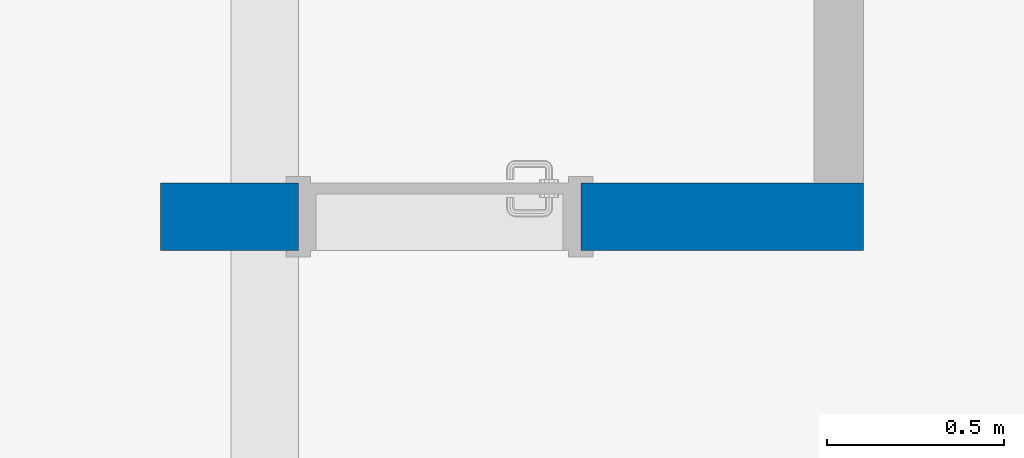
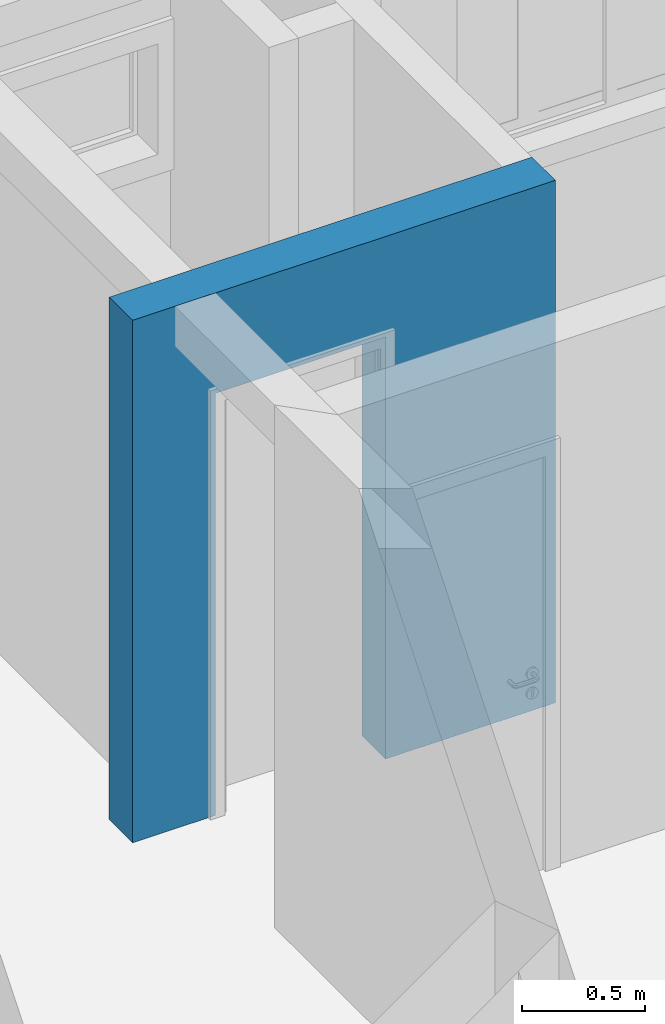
# One storey, part 10 of 47: 1 wall, 1 opening.
"""IFC2X3 building model written with IfcOpenShell, lengths in millimetres."""

import ifcopenshell
import ifcopenshell.guid

model = None  # the IFC model being written
_history = None  # IfcOwnerHistory: only IFC2X3 demands one
_inside = {}  # id of a spatial element -> (the spatial element, [elements in it])
_under = {}  # id of a project, library or spatial element -> (it, [spatial elements below it])
_declared = {}  # id of a project -> (the project, [libraries it declares])
_typed = {}  # id of a type object -> (the type object, [elements of that type])
_made_of = {}  # id of a material, layer set ... -> (it, [elements and type objects made of it])


def new_model(schema):
    """Start an empty IFC model of exactly this schema.

    Asked for "IFC4X3", IfcOpenShell would pick the latest addendum, in which some entities
    have other attributes; the version numbers below select the first issue.
    IFC2X3 requires an IfcOwnerHistory on every rooted entity: one is made here for all.
    """
    global model, _history
    if schema == "IFC4X3":
        model = ifcopenshell.file(schema_version=(4, 3, 0, 0))
    else:
        model = ifcopenshell.file(schema=schema)
    _inside.clear()
    _under.clear()
    _declared.clear()
    _typed.clear()
    _made_of.clear()
    _history = None
    if model.schema == "IFC2X3":
        org = make("IfcOrganization", Name="unknown")
        user = make(
            "IfcPersonAndOrganization",
            ThePerson=make("IfcPerson", FamilyName="unknown"),
            TheOrganization=org,
        )
        app = make(
            "IfcApplication",
            ApplicationDeveloper=org,
            Version="unknown",
            ApplicationFullName="unknown",
            ApplicationIdentifier="unknown",
        )
        _history = make(
            "IfcOwnerHistory",
            OwningUser=user,
            OwningApplication=app,
            ChangeAction="ADDED",
            CreationDate=0,
        )
    return model


def make(cls, **values):
    """One entity of the class cls with the attributes given. An attribute that is None is left unset."""
    return model.create_entity(
        cls, **{name: value for name, value in values.items() if value is not None}
    )


def entity(cls, *values):
    """Any entity or typed value of the class cls, its attributes in the order of the schema. None: left unset."""
    e = model.create_entity(cls)
    for i, value in enumerate(values):
        if value is not None:
            e[i] = value
    return e


def rooted(cls, **values):
    """An entity with a GlobalId (a new one), such as an element, a storey or a relation."""
    return make(cls, GlobalId=ifcopenshell.guid.new(), OwnerHistory=_history, **values)


def si_unit(unit_type, name, prefix=None):
    """IfcSIUnit, for example si_unit("LENGTHUNIT", "METRE", prefix="MILLI")."""
    return make("IfcSIUnit", UnitType=unit_type, Prefix=prefix, Name=name)


def converted_unit(unit_type, name, factor, base, dimensions=None, offset=None):
    """IfcConversionBasedUnit, such as the inch: factor (a typed value) times the base unit."""
    return make(
        "IfcConversionBasedUnit"
        if offset is None
        else "IfcConversionBasedUnitWithOffset",
        ConversionOffset=offset,
        Dimensions=None
        if dimensions is None
        else entity("IfcDimensionalExponents", *dimensions),
        UnitType=unit_type,
        Name=name,
        ConversionFactor=make(
            "IfcMeasureWithUnit", ValueComponent=factor, UnitComponent=base
        ),
    )


def derived_unit(unit_type, elements):
    """IfcDerivedUnit: a product of units, each with its exponent."""
    return make(
        "IfcDerivedUnit",
        Elements=[
            make("IfcDerivedUnitElement", Unit=unit, Exponent=power)
            for unit, power in elements
        ],
        UnitType=unit_type,
    )


def money_unit(currency):
    """IfcMonetaryUnit."""
    return make("IfcMonetaryUnit", Currency=currency)


def assignment(units):
    """IfcUnitAssignment: the units of a project."""
    return None if units is None else make("IfcUnitAssignment", Units=units)


def point(xyz):
    """IfcCartesianPoint."""
    return None if xyz is None else make("IfcCartesianPoint", Coordinates=xyz)


def direction(xyz):
    """IfcDirection."""
    return None if xyz is None else make("IfcDirection", DirectionRatios=xyz)


def frame(location, z_axis=None, x_axis=None):
    """IfcAxis2Placement3D, a coordinate frame: its origin and axes. An axis left out is left unset."""
    return make(
        "IfcAxis2Placement3D",
        Location=point(location),
        Axis=direction(z_axis),
        RefDirection=direction(x_axis),
    )


def frame_2d(location, x_axis=None):
    """IfcAxis2Placement2D, a coordinate frame in the plane: its origin and x axis."""
    return make(
        "IfcAxis2Placement2D", Location=point(location), RefDirection=direction(x_axis)
    )


def origin_with_axes():
    """The frame at (0, 0, 0) with the z axis (0, 0, 1) and the x axis (1, 0, 0) written out."""
    return frame((0.0, 0.0, 0.0), z_axis=(0.0, 0.0, 1.0), x_axis=(1.0, 0.0, 0.0))


def origin_2d_with_axis():
    """The frame at (0, 0) in the plane with the x axis (1, 0) written out."""
    return frame_2d((0.0, 0.0), x_axis=(1.0, 0.0))


def place(relative_to, where):
    """IfcLocalPlacement: puts the frame where relative to a parent placement (None: the world)."""
    return make(
        "IfcLocalPlacement", PlacementRelTo=relative_to, RelativePlacement=where
    )


def context(
    kind, dimensions, precision=None, world=None, true_north=None, identifier=None
):
    """IfcGeometricRepresentationContext, for example the 3D "Model" context."""
    return make(
        "IfcGeometricRepresentationContext",
        ContextIdentifier=identifier,
        ContextType=kind,
        CoordinateSpaceDimension=dimensions,
        Precision=precision,
        WorldCoordinateSystem=world,
        TrueNorth=true_north,
    )


def subcontext(parent, identifier, kind, view, scale=None):
    """IfcGeometricRepresentationSubContext, for example "Body" below "Model"."""
    return make(
        "IfcGeometricRepresentationSubContext",
        ContextIdentifier=identifier,
        ContextType=kind,
        ParentContext=parent,
        TargetScale=scale,
        TargetView=view,
    )


def project(units=None, contexts=None):
    """IfcProject with its units and contexts."""
    return rooted(
        "IfcProject",
        Name="project",
        RepresentationContexts=contexts,
        UnitsInContext=assignment(units),
    )


def spatial(cls, under=None, at=None, **own):
    """A site, building, storey or space (cls), placed at a placement, below another one or the project."""
    s = rooted(cls, ObjectPlacement=at, **own)
    if under is not None:
        _under.setdefault(under.id(), (under, []))[1].append(s)
    return s


def polyline(points):
    """IfcPolyline through the points."""
    return make("IfcPolyline", Points=[point(p) for p in points])


def profile(cls, at=None, kind="AREA", **sizes):
    """A parametric profile (cls). Its sizes go by their IFC names, for example OverallWidth=200.0."""
    return make(cls, ProfileType=kind, Position=at, **sizes)


def rectangle(**sizes):
    """IfcRectangleProfileDef."""
    return profile("IfcRectangleProfileDef", **sizes)


def outline(outer, holes=None, kind="AREA"):
    """IfcArbitraryClosedProfileDef: a profile drawn as a closed curve; with holes, ...WithVoids."""
    if holes is None:
        return make("IfcArbitraryClosedProfileDef", ProfileType=kind, OuterCurve=outer)
    return make(
        "IfcArbitraryProfileDefWithVoids",
        ProfileType=kind,
        OuterCurve=outer,
        InnerCurves=holes,
    )


def extrude(swept, where, along, depth):
    """IfcExtrudedAreaSolid: the profile swept, set in the frame where, extruded along a direction by depth."""
    return make(
        "IfcExtrudedAreaSolid",
        SweptArea=swept,
        Position=where,
        ExtrudedDirection=direction(along),
        Depth=depth,
    )


def shape(context_of_items, identifier, shape_type, items):
    """IfcShapeRepresentation: the items that make up one representation, for example the "Body"."""
    return make(
        "IfcShapeRepresentation",
        ContextOfItems=context_of_items,
        RepresentationIdentifier=identifier,
        RepresentationType=shape_type,
        Items=items,
    )


def material(Name=None, Category=None):
    """IfcMaterial."""
    return make("IfcMaterial", Name=Name, Category=Category)


def layer(
    of_material, thickness, ventilated=None, Name=None, Category=None, Priority=None
):
    """IfcMaterialLayer: one layer of a wall or slab, of a material (None: an air gap)."""
    return make(
        "IfcMaterialLayer",
        Material=of_material,
        LayerThickness=thickness,
        IsVentilated=ventilated,
        Name=Name,
        Category=Category,
        Priority=Priority,
    )


def layer_set(layers, Name=None):
    """IfcMaterialLayerSet."""
    return make("IfcMaterialLayerSet", MaterialLayers=layers, LayerSetName=Name)


def layer_usage(for_layer_set, set_direction, sense, offset, extent=None):
    """IfcMaterialLayerSetUsage: how a layer set lies in its element."""
    return make(
        "IfcMaterialLayerSetUsage",
        ForLayerSet=for_layer_set,
        LayerSetDirection=set_direction,
        DirectionSense=sense,
        OffsetFromReferenceLine=offset,
        ReferenceExtent=extent,
    )


def made_of(thing, what):
    """Note that an element or type object is made of a material, layer set ...; save() writes the relation."""
    if what is not None:
        _made_of.setdefault(what.id(), (what, []))[1].append(thing)
    return thing


def type_object(cls, material=None, **own):
    """A type object (cls), such as IfcWallType, which elements share."""
    return made_of(rooted(cls, **own), material)


def element(
    cls,
    number,
    at=None,
    inside=None,
    cuts=None,
    type_object=None,
    material=None,
    context=None,
    identifier="Body",
    shape_type=None,
    held_by="IfcProductDefinitionShape",
    body=None,
    shapes=None,
    **own,
):
    """One element of the class cls, such as IfcWall. Its Tag is "e" and its number.

    at: its placement. inside: the storey or other place that contains it. cuts: it is an
    opening in that element (IfcRelVoidsElement). A single representation is given by context,
    identifier, shape_type and body (its items); several are given by shapes. held_by: the class
    of the entity that holds the representations. save() writes the other relations.
    """
    e = rooted(cls, Tag="e%d" % number, ObjectPlacement=at, **own)
    if body is not None:
        shapes = [shape(context, identifier, shape_type, body)]
    if shapes is not None:
        e.Representation = make(held_by, Representations=shapes)
    if inside is not None:
        _inside.setdefault(inside.id(), (inside, []))[1].append(e)
    if cuts is not None:
        rooted(
            "IfcRelVoidsElement", RelatingBuildingElement=cuts, RelatedOpeningElement=e
        )
    if type_object is not None:
        _typed.setdefault(type_object.id(), (type_object, []))[1].append(e)
    return made_of(e, material)


def aggregate(whole, parts):
    """IfcRelAggregates: a whole, such as a stair, and the parts it consists of."""
    return rooted("IfcRelAggregates", RelatingObject=whole, RelatedObjects=parts)


def save(model, path):
    """Write the relations noted so far, then the file.

    IfcRelAggregates (storeys below a building ...), IfcRelContainedInSpatialStructure (elements
    in a storey), IfcRelDefinesByType, IfcRelAssociatesMaterial and IfcRelDeclares: one each for
    every whole, place, type object, material and project.
    """
    for whole, parts in _under.values():
        aggregate(whole, parts)
    for where, things in _inside.values():
        rooted(
            "IfcRelContainedInSpatialStructure",
            RelatedElements=things,
            RelatingStructure=where,
        )
    for kind, things in _typed.values():
        rooted("IfcRelDefinesByType", RelatedObjects=things, RelatingType=kind)
    for what, things in _made_of.values():
        rooted("IfcRelAssociatesMaterial", RelatedObjects=things, RelatingMaterial=what)
    for by, libraries in _declared.values():
        rooted("IfcRelDeclares", RelatingContext=by, RelatedDefinitions=libraries)
    model.write(path)


model = new_model("IFC2X3")

# Units and contexts
model_context = context("Model", 3, precision=0.01, world=origin_with_axes(), true_north=direction((0.0, 1.0)))
body_context = subcontext(model_context, "Body", "Model", "MODEL_VIEW")
ifc_project = project(units=[si_unit("LENGTHUNIT", "METRE", prefix="MILLI"), si_unit("AREAUNIT", "SQUARE_METRE"), si_unit("VOLUMEUNIT", "CUBIC_METRE"), converted_unit("PLANEANGLEUNIT", "DEGREE", entity("IfcPlaneAngleMeasure", 0.0174532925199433), si_unit("PLANEANGLEUNIT", "RADIAN"), dimensions=[0, 0, 0, 0, 0, 0, 0]), money_unit("USD"), converted_unit("TIMEUNIT", "Year", entity("IfcTimeMeasure", 31557600.0), si_unit("TIMEUNIT", "SECOND"), dimensions=[0, 0, 1, 0, 0, 0, 0]), si_unit("MASSUNIT", "GRAM", prefix="KILO"), si_unit("THERMODYNAMICTEMPERATUREUNIT", "DEGREE_CELSIUS"), si_unit("LUMINOUSINTENSITYUNIT", "LUMEN"), si_unit("ENERGYUNIT", "JOULE", prefix="MEGA"), derived_unit("THERMALCONDUCTANCEUNIT", [(si_unit("POWERUNIT", "WATT"), 1), (si_unit("LENGTHUNIT", "METRE"), -1), (si_unit("THERMODYNAMICTEMPERATUREUNIT", "KELVIN"), -1)]), derived_unit("SPECIFICHEATCAPACITYUNIT", [(si_unit("ENERGYUNIT", "JOULE"), 1), (si_unit("MASSUNIT", "GRAM", prefix="KILO"), -1), (si_unit("THERMODYNAMICTEMPERATUREUNIT", "KELVIN"), -1)]), derived_unit("MASSDENSITYUNIT", [(si_unit("MASSUNIT", "GRAM", prefix="KILO"), 1), (si_unit("VOLUMEUNIT", "CUBIC_METRE"), -1)])], contexts=[model_context])

# Site, building, storey
site_placement = place(None, origin_with_axes())
site = spatial("IfcSite", under=ifc_project, at=site_placement, Name="Local", CompositionType="ELEMENT")
building_placement = place(site_placement, origin_with_axes())
building = spatial("IfcBuilding", under=site, at=building_placement, Name="Construção", CompositionType="ELEMENT")
storey_placement = place(building_placement, origin_with_axes())
storey = spatial("IfcBuildingStorey", under=building, at=storey_placement, Name="Pavimento Tipo", CompositionType="ELEMENT", Elevation=0.0)

# Wall, opening
ifc_material = material(Name="Concreto - Estrutural")
ifc_layer = layer(ifc_material, 190.0, ventilated="UNKNOWN")
ifc_layer_set = layer_set([ifc_layer], Name="Concreto - Estrutural 190")
ifc_layer_usage = layer_usage(ifc_layer_set, "AXIS2", "NEGATIVE", 0.0)
wall_type = type_object("IfcWallType", Name="Concreto - Estrutural 190", PredefinedType="NOTDEFINED")
wall_placement = place(storey_placement, frame((-2757.433002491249, 2796.981417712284, 0.0), z_axis=(0.0, 0.0, 1.0), x_axis=(-1.0, 0.0, 0.0)))
wall = element("IfcWallStandardCase", 1, at=wall_placement, inside=storey, type_object=wall_type, material=ifc_layer_usage, Name="Apartamento 3 - Parede-092", context=body_context, shape_type="SweptSolid", body=[
    extrude(outline(polyline([(0.0, -189.9999999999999), (1990.000000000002, -189.9999999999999), (1990.000000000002, 0.0), (0.0, 0.0), (0.0, -189.9999999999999)])), origin_with_axes(), (0.0, 0.0, 1.0), 2600.0),
])
opening_placement = place(wall_placement, frame((1200.000000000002, 0.0, 0.0), z_axis=(0.0, 0.0, 1.0), x_axis=(1.0, 0.0, 0.0)))
element("IfcOpeningElement", 2, at=opening_placement, cuts=wall, Name="Apartamento 3 - P02", context=body_context, shape_type="SweptSolid", body=[
    extrude(rectangle(XDim=799.9999999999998, YDim=2100.0, at=origin_2d_with_axis()), frame((0.0, -189.9999999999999, 1050.0), z_axis=(0.0, -1.0, 0.0), x_axis=(1.0, 0.0, 0.0)), (0.0, 0.0, -1.0), 570.0000000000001),
    extrude(rectangle(XDim=870.0000000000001, YDim=2135.0, at=origin_2d_with_axis()), frame((0.0, -189.9999999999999, 1067.5), z_axis=(0.0, -1.0, 0.0), x_axis=(1.0, 0.0, 0.0)), (0.0, 0.0, 1.0), 190.0),
    extrude(rectangle(XDim=870.0000000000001, YDim=2135.0, at=origin_2d_with_axis()), frame((0.0, 0.0, 1067.5), z_axis=(0.0, 1.0, 0.0), x_axis=(1.0, 0.0, 0.0)), (0.0, 0.0, 1.0), 190.0),
])

save(model, "model.ifc")
